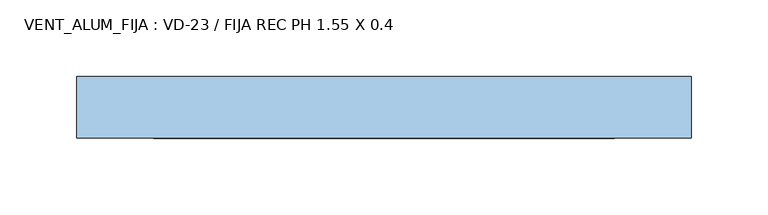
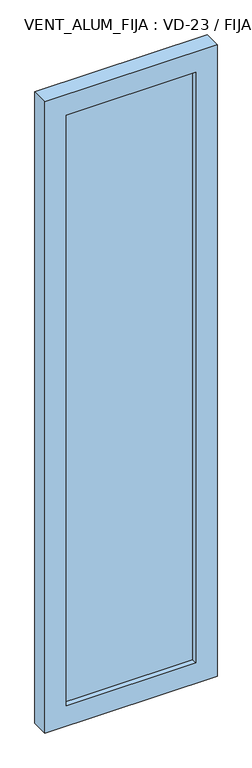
"""IFC4 building model written with IfcOpenShell, lengths in millimetres: window geometry, VENT_ALUM_FIJA : VD-23 / FIJA REC PH 1.55 X 0.4."""

import ifcopenshell
import ifcopenshell.guid

model = None  # the IFC model being written
_history = None  # IfcOwnerHistory: only IFC2X3 demands one
_inside = {}  # id of a spatial element -> (the spatial element, [elements in it])
_under = {}  # id of a project, library or spatial element -> (it, [spatial elements below it])
_declared = {}  # id of a project -> (the project, [libraries it declares])
_typed = {}  # id of a type object -> (the type object, [elements of that type])
_made_of = {}  # id of a material, layer set ... -> (it, [elements and type objects made of it])


def new_model(schema):
    """Start an empty IFC model of exactly this schema.

    Asked for "IFC4X3", IfcOpenShell would pick the latest addendum, in which some entities
    have other attributes; the version numbers below select the first issue.
    IFC2X3 requires an IfcOwnerHistory on every rooted entity: one is made here for all.
    """
    global model, _history
    if schema == "IFC4X3":
        model = ifcopenshell.file(schema_version=(4, 3, 0, 0))
    else:
        model = ifcopenshell.file(schema=schema)
    _inside.clear()
    _under.clear()
    _declared.clear()
    _typed.clear()
    _made_of.clear()
    _history = None
    if model.schema == "IFC2X3":
        org = make("IfcOrganization", Name="unknown")
        user = make(
            "IfcPersonAndOrganization",
            ThePerson=make("IfcPerson", FamilyName="unknown"),
            TheOrganization=org,
        )
        app = make(
            "IfcApplication",
            ApplicationDeveloper=org,
            Version="unknown",
            ApplicationFullName="unknown",
            ApplicationIdentifier="unknown",
        )
        _history = make(
            "IfcOwnerHistory",
            OwningUser=user,
            OwningApplication=app,
            ChangeAction="ADDED",
            CreationDate=0,
        )
    return model


def make(cls, **values):
    """One entity of the class cls with the attributes given. An attribute that is None is left unset."""
    return model.create_entity(
        cls, **{name: value for name, value in values.items() if value is not None}
    )


def rooted(cls, **values):
    """An entity with a GlobalId (a new one), such as an element, a storey or a relation."""
    return make(cls, GlobalId=ifcopenshell.guid.new(), OwnerHistory=_history, **values)


def si_unit(unit_type, name, prefix=None):
    """IfcSIUnit, for example si_unit("LENGTHUNIT", "METRE", prefix="MILLI")."""
    return make("IfcSIUnit", UnitType=unit_type, Prefix=prefix, Name=name)


def assignment(units):
    """IfcUnitAssignment: the units of a project."""
    return None if units is None else make("IfcUnitAssignment", Units=units)


def point(xyz):
    """IfcCartesianPoint."""
    return None if xyz is None else make("IfcCartesianPoint", Coordinates=xyz)


def direction(xyz):
    """IfcDirection."""
    return None if xyz is None else make("IfcDirection", DirectionRatios=xyz)


def frame(location, z_axis=None, x_axis=None):
    """IfcAxis2Placement3D, a coordinate frame: its origin and axes. An axis left out is left unset."""
    return make(
        "IfcAxis2Placement3D",
        Location=point(location),
        Axis=direction(z_axis),
        RefDirection=direction(x_axis),
    )


def origin():
    """The frame at (0, 0, 0) with its axes left unset."""
    return frame((0.0, 0.0, 0.0))


def place(relative_to, where):
    """IfcLocalPlacement: puts the frame where relative to a parent placement (None: the world)."""
    return make(
        "IfcLocalPlacement", PlacementRelTo=relative_to, RelativePlacement=where
    )


def context(
    kind, dimensions, precision=None, world=None, true_north=None, identifier=None
):
    """IfcGeometricRepresentationContext, for example the 3D "Model" context."""
    return make(
        "IfcGeometricRepresentationContext",
        ContextIdentifier=identifier,
        ContextType=kind,
        CoordinateSpaceDimension=dimensions,
        Precision=precision,
        WorldCoordinateSystem=world,
        TrueNorth=true_north,
    )


def project(units=None, contexts=None):
    """IfcProject with its units and contexts."""
    return rooted(
        "IfcProject",
        Name="project",
        RepresentationContexts=contexts,
        UnitsInContext=assignment(units),
    )


def spatial(cls, under=None, at=None, **own):
    """A site, building, storey or space (cls), placed at a placement, below another one or the project."""
    s = rooted(cls, ObjectPlacement=at, **own)
    if under is not None:
        _under.setdefault(under.id(), (under, []))[1].append(s)
    return s


def polyline(points):
    """IfcPolyline through the points."""
    return make("IfcPolyline", Points=[point(p) for p in points])


def outline(outer, holes=None, kind="AREA"):
    """IfcArbitraryClosedProfileDef: a profile drawn as a closed curve; with holes, ...WithVoids."""
    if holes is None:
        return make("IfcArbitraryClosedProfileDef", ProfileType=kind, OuterCurve=outer)
    return make(
        "IfcArbitraryProfileDefWithVoids",
        ProfileType=kind,
        OuterCurve=outer,
        InnerCurves=holes,
    )


def extrude(swept, where, along, depth):
    """IfcExtrudedAreaSolid: the profile swept, set in the frame where, extruded along a direction by depth."""
    return make(
        "IfcExtrudedAreaSolid",
        SweptArea=swept,
        Position=where,
        ExtrudedDirection=direction(along),
        Depth=depth,
    )


def shape(context_of_items, identifier, shape_type, items):
    """IfcShapeRepresentation: the items that make up one representation, for example the "Body"."""
    return make(
        "IfcShapeRepresentation",
        ContextOfItems=context_of_items,
        RepresentationIdentifier=identifier,
        RepresentationType=shape_type,
        Items=items,
    )


def source(mapping_origin, context_of_items, identifier, shape_type, items):
    """IfcRepresentationMap: a shape defined once, which mapped items show again and again."""
    return make(
        "IfcRepresentationMap",
        MappingOrigin=mapping_origin,
        MappedRepresentation=shape(context_of_items, identifier, shape_type, items),
    )


def transform(
    local_origin,
    x_axis=None,
    y_axis=None,
    z_axis=None,
    scale=None,
    scale2=None,
    scale3=None,
    uniform=True,
):
    """IfcCartesianTransformationOperator3D, or its non-uniform kind. x_axis, y_axis, z_axis: its Axis1, 2, 3."""
    if uniform:
        return make(
            "IfcCartesianTransformationOperator3D",
            Axis1=direction(x_axis),
            Axis2=direction(y_axis),
            LocalOrigin=point(local_origin),
            Scale=scale,
            Axis3=direction(z_axis),
        )
    return make(
        "IfcCartesianTransformationOperator3DnonUniform",
        Axis1=direction(x_axis),
        Axis2=direction(y_axis),
        LocalOrigin=point(local_origin),
        Scale=scale,
        Axis3=direction(z_axis),
        Scale2=scale2,
        Scale3=scale3,
    )


def mapped(mapping_source, mapping_target):
    """IfcMappedItem: shows the shape of a source again, moved by a transform."""
    return make(
        "IfcMappedItem", MappingSource=mapping_source, MappingTarget=mapping_target
    )


def made_of(thing, what):
    """Note that an element or type object is made of a material, layer set ...; save() writes the relation."""
    if what is not None:
        _made_of.setdefault(what.id(), (what, []))[1].append(thing)
    return thing


def element(
    cls,
    number,
    at=None,
    inside=None,
    cuts=None,
    type_object=None,
    material=None,
    context=None,
    identifier="Body",
    shape_type=None,
    held_by="IfcProductDefinitionShape",
    body=None,
    shapes=None,
    **own,
):
    """One element of the class cls, such as IfcWall. Its Tag is "e" and its number.

    at: its placement. inside: the storey or other place that contains it. cuts: it is an
    opening in that element (IfcRelVoidsElement). A single representation is given by context,
    identifier, shape_type and body (its items); several are given by shapes. held_by: the class
    of the entity that holds the representations. save() writes the other relations.
    """
    e = rooted(cls, Tag="e%d" % number, ObjectPlacement=at, **own)
    if body is not None:
        shapes = [shape(context, identifier, shape_type, body)]
    if shapes is not None:
        e.Representation = make(held_by, Representations=shapes)
    if inside is not None:
        _inside.setdefault(inside.id(), (inside, []))[1].append(e)
    if cuts is not None:
        rooted(
            "IfcRelVoidsElement", RelatingBuildingElement=cuts, RelatedOpeningElement=e
        )
    if type_object is not None:
        _typed.setdefault(type_object.id(), (type_object, []))[1].append(e)
    return made_of(e, material)


def aggregate(whole, parts):
    """IfcRelAggregates: a whole, such as a stair, and the parts it consists of."""
    return rooted("IfcRelAggregates", RelatingObject=whole, RelatedObjects=parts)


def save(model, path):
    """Write the relations noted so far, then the file.

    IfcRelAggregates (storeys below a building ...), IfcRelContainedInSpatialStructure (elements
    in a storey), IfcRelDefinesByType, IfcRelAssociatesMaterial and IfcRelDeclares: one each for
    every whole, place, type object, material and project.
    """
    for whole, parts in _under.values():
        aggregate(whole, parts)
    for where, things in _inside.values():
        rooted(
            "IfcRelContainedInSpatialStructure",
            RelatedElements=things,
            RelatingStructure=where,
        )
    for kind, things in _typed.values():
        rooted("IfcRelDefinesByType", RelatedObjects=things, RelatingType=kind)
    for what, things in _made_of.values():
        rooted("IfcRelAssociatesMaterial", RelatedObjects=things, RelatingMaterial=what)
    for by, libraries in _declared.values():
        rooted("IfcRelDeclares", RelatingContext=by, RelatedDefinitions=libraries)
    model.write(path)


def vent_alum_fija_vd_23_fija_rec_ph_1_55_x_0_4_d16d8d73(model_context):
    return source(origin(), model_context, "Body", "SweptSolid", [
        extrude(outline(polyline([(2350.0, -200.0), (800.0, -200.0), (800.0, 200.0), (2350.0, 200.0), (2350.0, -200.0)]), holes=[polyline([(850.0, -150.0), (2300.0, -150.0), (2300.0, 150.0), (850.0, 150.0), (850.0, -150.0)])]), frame((0.0, -15.0, 0.0), z_axis=(0.0, 1.0, 0.0), x_axis=(0.0, 0.0, 1.0)), (0.0, 0.0, 1.0), 40.0),
        extrude(outline(polyline([(150.0, 3.0), (150.0, -3.0), (-150.0, -3.0), (-150.0, 3.0), (150.0, 3.0)])), frame((0.0, 0.0, 850.0), z_axis=(0.0, 0.0, 1.0), x_axis=(1.0, 0.0, 0.0)), (0.0, 0.0, 1.0), 1450.0),
    ])


if __name__ == "__main__":
    model = new_model("IFC4")
    model_context = context("Model", 3, world=origin())
    ifc_project = project(units=[si_unit("LENGTHUNIT", "METRE", prefix="MILLI")], contexts=[model_context])
    site = spatial("IfcSite", under=ifc_project)
    building = spatial("IfcBuilding", under=site)
    placement = place(None, origin())
    vent_alum_fija_vd_23_fija_rec_ph_1_55_x_0_4_shape = vent_alum_fija_vd_23_fija_rec_ph_1_55_x_0_4_d16d8d73(model_context)
    element("IfcWindow", 1, ObjectType="VENT_ALUM_FIJA : VD-23 / FIJA REC PH 1.55 X 0.4", at=placement, inside=building, context=model_context, shape_type="MappedRepresentation", body=[
        mapped(vent_alum_fija_vd_23_fija_rec_ph_1_55_x_0_4_shape, transform((0.0, 0.0, 0.0), x_axis=(1.0, 0.0, 0.0), y_axis=(0.0, 1.0, 0.0), z_axis=(0.0, 0.0, 1.0))),
    ])
    save(model, "model.ifc")
